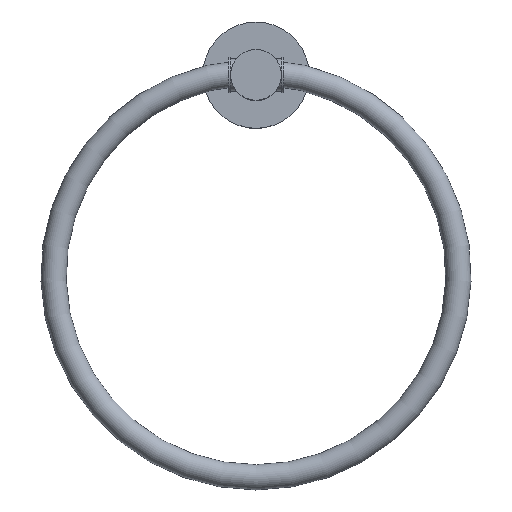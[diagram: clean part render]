
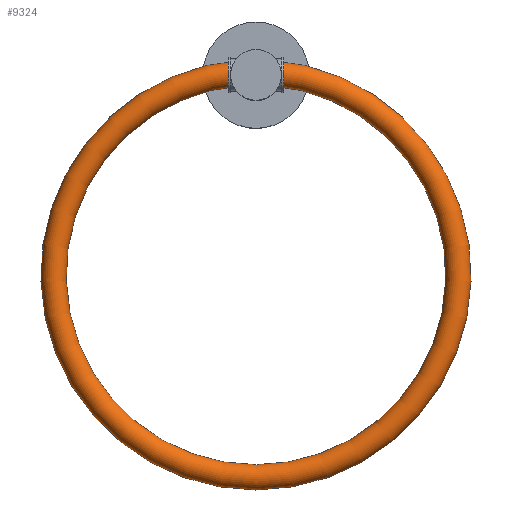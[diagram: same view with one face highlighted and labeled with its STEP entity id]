
A CAD part, top view. The second image highlights one B-rep face of the part: STEP entity #9324.
In plain terms, the highlighted toroidal (fillet/blend) face has major radius 80 mm and minor radius 5 mm.
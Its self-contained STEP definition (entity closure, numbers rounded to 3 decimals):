
#35=TOROIDAL_SURFACE('',#9971,80.,5.);
#2613=FACE_OUTER_BOUND('',#3176,.T.);
#3176=EDGE_LOOP('',(#8141,#8142,#8143,#8144));
#3451=CIRCLE('',#9969,5.);
#3453=CIRCLE('',#9972,5.);
#3454=CIRCLE('',#9973,75.);
#4290=VERTEX_POINT('',#53033);
#4292=VERTEX_POINT('',#53038);
#5610=EDGE_CURVE('',#4290,#4290,#3451,.T.);
#5612=EDGE_CURVE('',#4292,#4292,#3453,.T.);
#5613=EDGE_CURVE('',#4292,#4290,#3454,.T.);
#8141=ORIENTED_EDGE('',*,*,#5612,.F.);
#8142=ORIENTED_EDGE('',*,*,#5613,.T.);
#8143=ORIENTED_EDGE('',*,*,#5610,.T.);
#8144=ORIENTED_EDGE('',*,*,#5613,.F.);
#9324=ADVANCED_FACE('',(#2613),#35,.T.);
#9969=AXIS2_PLACEMENT_3D('',#53034,#11710,#11711);
#9971=AXIS2_PLACEMENT_3D('',#53037,#11714,#11715);
#9972=AXIS2_PLACEMENT_3D('',#53039,#11716,#11717);
#9973=AXIS2_PLACEMENT_3D('',#53040,#11718,#11719);
#11710=DIRECTION('center_axis',(-0.998,-0.062,
0.));
#11711=DIRECTION('ref_axis',(0.062,-0.998,0.));
#11714=DIRECTION('center_axis',(0.,0.,1.));
#11715=DIRECTION('ref_axis',(0.062,-0.998,0.));
#11716=DIRECTION('center_axis',(-0.998,0.062,0.));
#11717=DIRECTION('ref_axis',(-0.062,-0.998,0.));
#11718=DIRECTION('center_axis',(0.,0.,-1.));
#11719=DIRECTION('ref_axis',(0.062,-0.998,0.));
#53033=CARTESIAN_POINT('',(-4.688,-25.147,37.5));
#53034=CARTESIAN_POINT('Origin',(-5.,-20.156,37.5));
#53037=CARTESIAN_POINT('Origin',(0.,-100.,37.5));
#53038=CARTESIAN_POINT('',(4.688,-25.147,37.5));
#53039=CARTESIAN_POINT('Origin',(5.,-20.156,37.5));
#53040=CARTESIAN_POINT('Origin',(0.,-100.,37.5));
